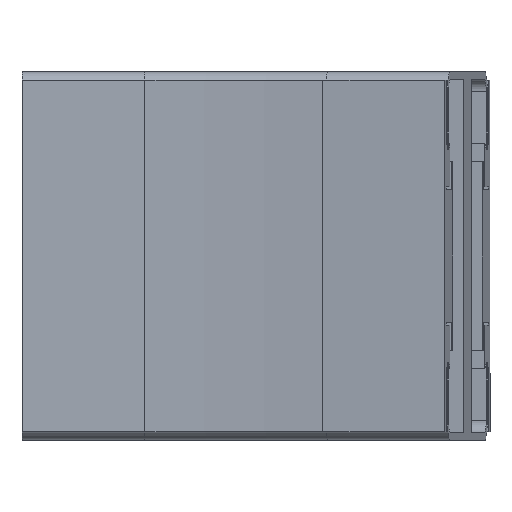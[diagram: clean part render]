
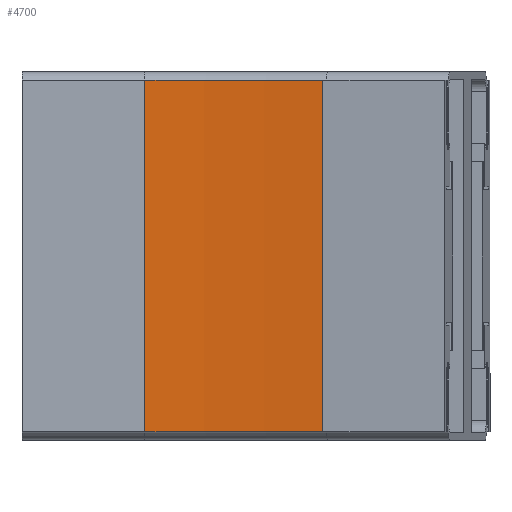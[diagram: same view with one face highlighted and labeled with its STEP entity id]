
A CAD part, front view. The second image highlights one B-rep face of the part: STEP entity #4700.
In plain terms, the highlighted cylindrical face has radius 443.5 mm (diameter 887 mm), a partial arc.
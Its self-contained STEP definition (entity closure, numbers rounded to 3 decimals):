
#88 = CARTESIAN_POINT ( 'NONE',  ( 40., -56.5, 57.15 ) ) ;
#120 = DIRECTION ( 'NONE',  ( 1., 0., 0. ) ) ;
#121 = VECTOR ( 'NONE', #3954, 1000. ) ;
#169 = CARTESIAN_POINT ( 'NONE',  ( 40., -56.5, 0. ) ) ;
#325 = ORIENTED_EDGE ( 'NONE', *, *, #1049, .T. ) ;
#392 = EDGE_CURVE ( 'NONE', #2202, #982, #441, .T. ) ;
#426 = DIRECTION ( 'NONE',  ( 1., 0., 0. ) ) ;
#441 = CIRCLE ( 'NONE', #2516, 443.5 ) ;
#447 = ORIENTED_EDGE ( 'NONE', *, *, #2571, .T. ) ;
#608 = DIRECTION ( 'NONE',  ( 0., 0., 1. ) ) ;
#679 = DIRECTION ( 'NONE',  ( 1., 0., 0. ) ) ;
#982 = VERTEX_POINT ( 'NONE', #88 ) ;
#1049 = EDGE_CURVE ( 'NONE', #982, #3816, #5639, .T. ) ;
#1253 = CARTESIAN_POINT ( 'NONE',  ( 40., -500., -57.15 ) ) ;
#1298 = CIRCLE ( 'NONE', #4098, 443.5 ) ;
#1327 = CARTESIAN_POINT ( 'NONE',  ( 97.888, -60.294, -57.15 ) ) ;
#1545 = DIRECTION ( 'NONE',  ( 0., 0., -1. ) ) ;
#1556 = FACE_OUTER_BOUND ( 'NONE', #2960, .T. ) ;
#1561 = LINE ( 'NONE', #1327, #121 ) ;
#1751 = ORIENTED_EDGE ( 'NONE', *, *, #3369, .F. ) ;
#1789 = ORIENTED_EDGE ( 'NONE', *, *, #392, .T. ) ;
#2029 = CARTESIAN_POINT ( 'NONE',  ( 40., -500., 0. ) ) ;
#2198 = CARTESIAN_POINT ( 'NONE',  ( 40., -500., 57.15 ) ) ;
#2202 = VERTEX_POINT ( 'NONE', #4027 ) ;
#2218 = CARTESIAN_POINT ( 'NONE',  ( 40., -56.5, -57.15 ) ) ;
#2359 = CARTESIAN_POINT ( 'NONE',  ( 97.888, -60.294, -57.15 ) ) ;
#2516 = AXIS2_PLACEMENT_3D ( 'NONE', #2198, #4838, #426 ) ;
#2571 = EDGE_CURVE ( 'NONE', #3426, #2202, #1561, .T. ) ;
#2910 = DIRECTION ( 'NONE',  ( 0., 0., 1. ) ) ;
#2960 = EDGE_LOOP ( 'NONE', ( #325, #1751, #447, #1789 ) ) ;
#3369 = EDGE_CURVE ( 'NONE', #3426, #3816, #1298, .T. ) ;
#3426 = VERTEX_POINT ( 'NONE', #2359 ) ;
#3816 = VERTEX_POINT ( 'NONE', #2218 ) ;
#3954 = DIRECTION ( 'NONE',  ( 0., 0., 1. ) ) ;
#4027 = CARTESIAN_POINT ( 'NONE',  ( 97.888, -60.294, 57.15 ) ) ;
#4098 = AXIS2_PLACEMENT_3D ( 'NONE', #1253, #608, #120 ) ;
#4700 = ADVANCED_FACE ( 'NONE', ( #1556 ), #5316, .F. ) ;
#4838 = DIRECTION ( 'NONE',  ( 0., 0., 1. ) ) ;
#4922 = VECTOR ( 'NONE', #1545, 1000. ) ;
#5067 = AXIS2_PLACEMENT_3D ( 'NONE', #2029, #2910, #679 ) ;
#5316 = CYLINDRICAL_SURFACE ( 'NONE', #5067, 443.5 ) ;
#5639 = LINE ( 'NONE', #169, #4922 ) ;
